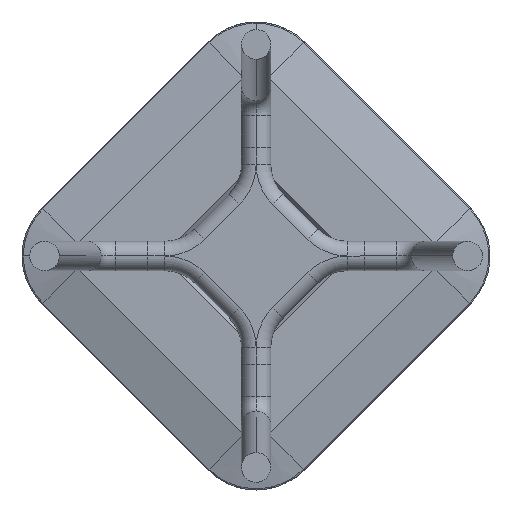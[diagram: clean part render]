
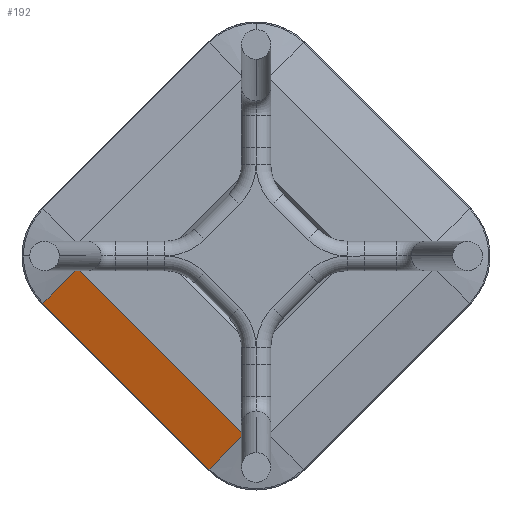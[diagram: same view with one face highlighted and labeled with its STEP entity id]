
A CAD part, front view. The second image highlights one B-rep face of the part: STEP entity #192.
In plain terms, the highlighted planar face has unit normal (-0.176, -0.968, -0.176).
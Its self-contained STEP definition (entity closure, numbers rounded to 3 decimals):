
#132 = CARTESIAN_POINT ( 'NONE',  ( -14.849, 400., -212.839 ) ) ;
#192 = ADVANCED_FACE ( 'NONE', ( #245 ), #2886, .F. ) ;
#245 = FACE_OUTER_BOUND ( 'NONE', #1047, .T. ) ;
#248 = VECTOR ( 'NONE', #4563, 1000. ) ;
#306 = DIRECTION ( 'NONE',  ( 0., -0.179, 0.984 ) ) ;
#326 = VECTOR ( 'NONE', #4765, 1000. ) ;
#634 = VERTEX_POINT ( 'NONE', #1458 ) ;
#795 = VERTEX_POINT ( 'NONE', #2476 ) ;
#1047 = EDGE_LOOP ( 'NONE', ( #4129, #2944, #5126, #5587 ) ) ;
#1113 = DIRECTION ( 'NONE',  ( -0.707, 0., 0.707 ) ) ;
#1128 = CARTESIAN_POINT ( 'NONE',  ( -56.214, 415.063, -254.204 ) ) ;
#1458 = CARTESIAN_POINT ( 'NONE',  ( -14.849, 400., -212.839 ) ) ;
#2162 = EDGE_CURVE ( 'NONE', #634, #795, #5201, .T. ) ;
#2214 = VERTEX_POINT ( 'NONE', #3856 ) ;
#2307 = EDGE_CURVE ( 'NONE', #795, #2214, #4873, .T. ) ;
#2470 = CARTESIAN_POINT ( 'NONE',  ( -56.214, 415.063, -254.204 ) ) ;
#2476 = CARTESIAN_POINT ( 'NONE',  ( -212.839, 400., -14.849 ) ) ;
#2533 = CARTESIAN_POINT ( 'NONE',  ( -212.839, 400., -14.849 ) ) ;
#2886 = PLANE ( 'NONE',  #4960 ) ;
#2944 = ORIENTED_EDGE ( 'NONE', *, *, #2162, .T. ) ;
#3387 = LINE ( 'NONE', #1128, #326 ) ;
#3460 = DIRECTION ( 'NONE',  ( 0.176, 0.968, 0.176 ) ) ;
#3856 = CARTESIAN_POINT ( 'NONE',  ( -254.204, 415.063, -56.214 ) ) ;
#4080 = VERTEX_POINT ( 'NONE', #2470 ) ;
#4082 = CARTESIAN_POINT ( 'NONE',  ( -14.849, 400., -212.839 ) ) ;
#4129 = ORIENTED_EDGE ( 'NONE', *, *, #5612, .F. ) ;
#4433 = VECTOR ( 'NONE', #4460, 1000. ) ;
#4460 = DIRECTION ( 'NONE',  ( -0.685, 0.249, -0.685 ) ) ;
#4563 = DIRECTION ( 'NONE',  ( -0.685, 0.249, -0.685 ) ) ;
#4647 = VECTOR ( 'NONE', #1113, 1000. ) ;
#4765 = DIRECTION ( 'NONE',  ( -0.707, 0., 0.707 ) ) ;
#4873 = LINE ( 'NONE', #2533, #4433 ) ;
#4960 = AXIS2_PLACEMENT_3D ( 'NONE', #5744, #3460, #306 ) ;
#5123 = LINE ( 'NONE', #4082, #248 ) ;
#5126 = ORIENTED_EDGE ( 'NONE', *, *, #2307, .T. ) ;
#5201 = LINE ( 'NONE', #132, #4647 ) ;
#5354 = EDGE_CURVE ( 'NONE', #4080, #2214, #3387, .T. ) ;
#5587 = ORIENTED_EDGE ( 'NONE', *, *, #5354, .F. ) ;
#5612 = EDGE_CURVE ( 'NONE', #634, #4080, #5123, .T. ) ;
#5744 = CARTESIAN_POINT ( 'NONE',  ( -14.849, 400., -212.839 ) ) ;
